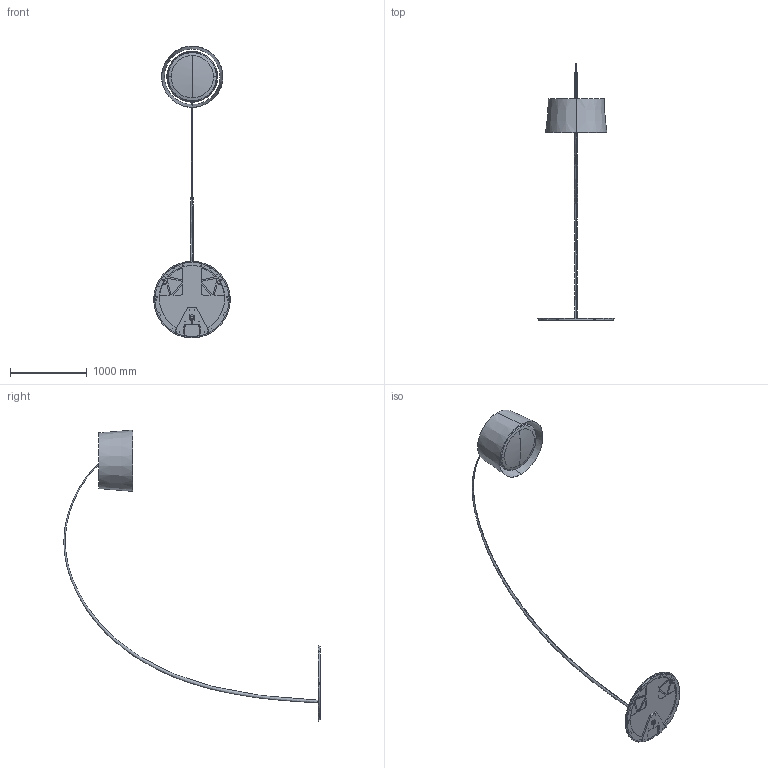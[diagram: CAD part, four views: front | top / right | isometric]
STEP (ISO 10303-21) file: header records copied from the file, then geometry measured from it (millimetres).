
FILE_DESCRIPTION (( 'STEP AP214' ), '1' );
FILE_NAME ('159_TWICE_F_LD_2D.STEP', '2021-04-27T10:57:04', ( '' ), ( '' ), 'SwSTEP 2.0', 'SolidWorks 2021', '' );
FILE_SCHEMA (( 'AUTOMOTIVE_DESIGN' ));
Length unit declared in the file: millimetre
Products named in the file (1): 159_TWICE_F_LD_2D
Bounding box: 1000 x 3344.98 x 3809.27 mm (x, y, z)
Volume: 14586356.8 mm3; surface area: 6913159.3 mm2
Topology: 9 solids, 9 shells, 569 faces, 1496 edges, 942 vertices
Faces by surface type: cylinder 290, cone 166, plane 81, bspline 16, torus 12, sphere 4
Entity records: 26181 total; most frequent: CARTESIAN_POINT 4940, DIRECTION 3334, ORIENTED_EDGE 2992, EDGE_CURVE 1496, AXIS2_PLACEMENT_3D 1358, VERTEX_POINT 942, CIRCLE 804, EDGE_LOOP 748
